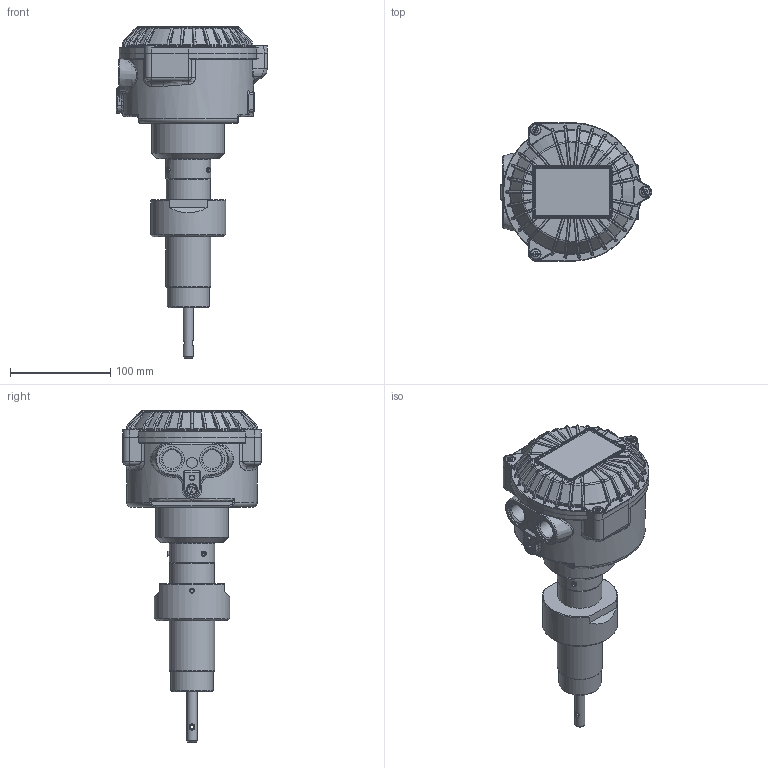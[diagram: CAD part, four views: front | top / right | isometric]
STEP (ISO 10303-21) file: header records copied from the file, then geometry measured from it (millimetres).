
FILE_DESCRIPTION(/* description */ (''),/* implementation_level */ '2;1');
FILE_NAME(/* name */ '\\SRVGEST\camlogic\TEMP\Kulwant S\2_STEP\2_STEP\PFG05\PFG-05 AT.stp',/* time_stamp */ '2021-06-10T16:37:15+02:00',/* author */ ('kulwant.singh'),/* organization */ (''),/* preprocessor_version */ 'ST-DEVELOPER v18.1',/* originating_system */ 'Autodesk Inventor 2022',/* authorisation */ '');
FILE_SCHEMA (('AUTOMOTIVE_DESIGN { 1 0 10303 214 3 1 1 }'));
Products named in the file (1): PFG-05 AT
Bounding box: 150.5 x 138 x 330.7 mm (x, y, z)
Volume: 1726787.2 mm3; surface area: 116753.3 mm2
Topology: 1 solids, 1 shells, 2051 faces, 4788 edges, 2760 vertices
Faces by surface type: bspline 700, cylinder 418, plane 387, torus 223, cone 207, sphere 116
Full cylindrical faces by diameter (mm): 4.65 x1, 5 x3, 10 x4, 10.5 x1, 10.75 x1, 10.8 x3, 18.631 x2, 25 x2, 26.15 x1, 27.2 x1, 42 x1, 44 x1, 45 x2, 72.226 x1, 75 x1
Entity records: 82033 total; most frequent: CARTESIAN_POINT 37309, ORIENTED_EDGE 9546, DIRECTION 7991, EDGE_CURVE 4773, AXIS2_PLACEMENT_3D 3393, VERTEX_POINT 2760, EDGE_LOOP 2089, FACE_OUTER_BOUND 2051
